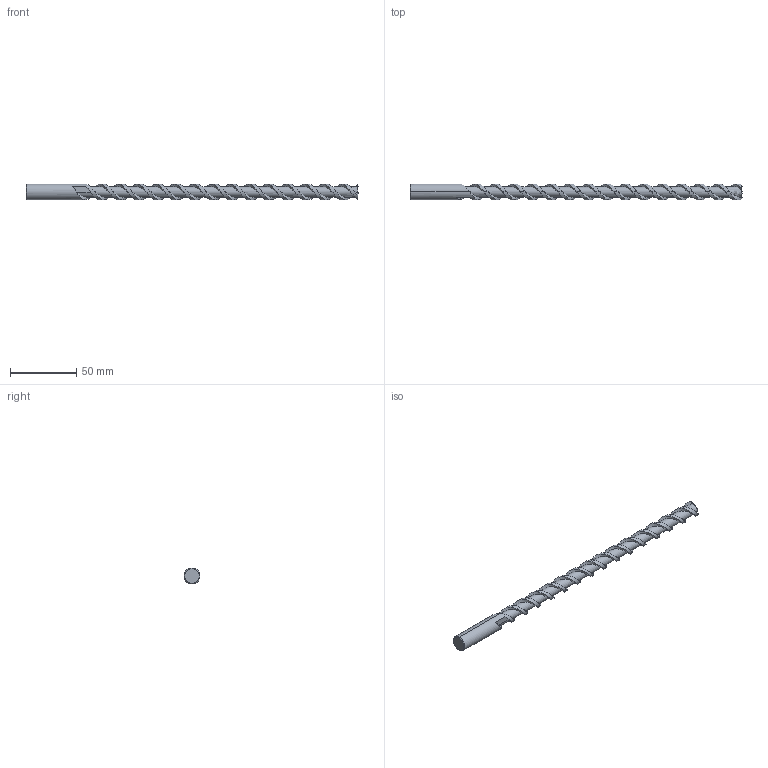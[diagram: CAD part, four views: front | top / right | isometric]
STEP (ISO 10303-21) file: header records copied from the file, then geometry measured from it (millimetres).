
FILE_DESCRIPTION (( 'STEP AP214' ), '1' );
FILE_NAME ('E2122_12_250.STEP', '2013-04-10T07:02:51', ( '' ), ( '' ), 'SwSTEP 2.0', 'SolidWorks 2013', '' );
FILE_SCHEMA (( 'AUTOMOTIVE_DESIGN' ));
Length unit declared in the file: millimetre
Products named in the file (1): E2122_12_250
Bounding box: 250 x 12 x 12 mm (x, y, z)
Volume: 18400.3 mm3; surface area: 9705.9 mm2
Topology: 1 solids, 1 shells, 46 faces, 126 edges, 82 vertices
Faces by surface type: cylinder 30, plane 8, bspline 6, cone 2
Entity records: 9649 total; most frequent: CARTESIAN_POINT 8182, ORIENTED_EDGE 252, DIRECTION 138, EDGE_CURVE 126, VERTEX_POINT 82, UNCERTAINTY_MEASURE_WITH_UNIT 49, STYLED_ITEM 48, PRESENTATION_LAYER_ASSIGNMENT 48
